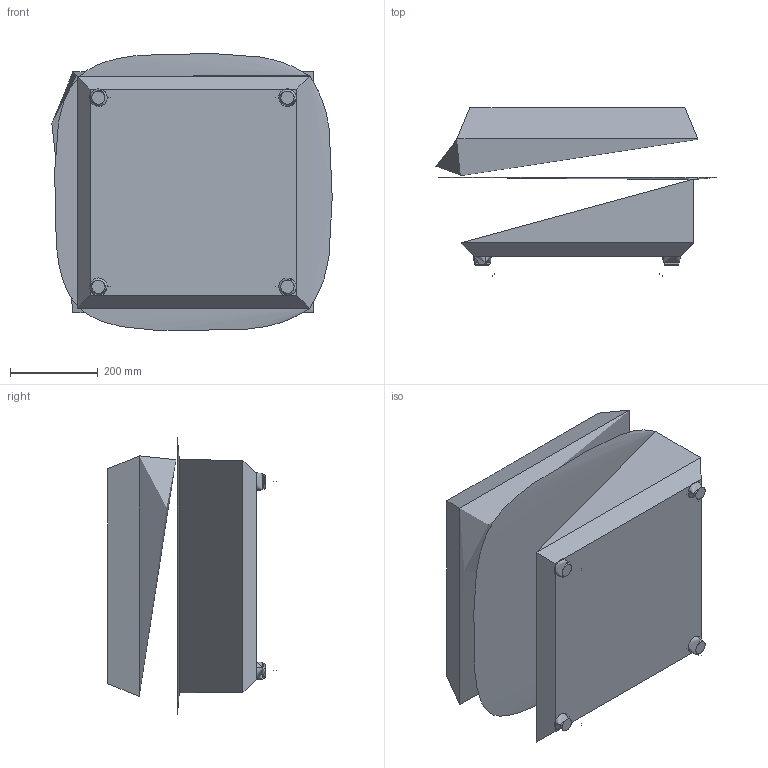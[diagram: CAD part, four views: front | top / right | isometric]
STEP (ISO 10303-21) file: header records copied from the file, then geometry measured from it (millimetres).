
FILE_DESCRIPTION(/* description */ (''),/* implementation_level */ '2;1');
FILE_NAME(/* name */ 'Covent Pouf, Small, 65x65',/* time_stamp */ '2024-07-02T15:58:38+02:00',/* author */ (''),/* organization */ (''),/* preprocessor_version */ 'ST-DEVELOPER v16.5',/* originating_system */ 'Rhino 7.37',/* authorisation */ '');
FILE_SCHEMA (('CONFIG_CONTROL_DESIGN'));
Length unit declared in the file: millimetre
Products named in the file (1): Document
Bounding box: 638.83 x 383.22 x 631.5 mm (x, y, z)
Volume: 137648563.5 mm3; surface area: 2282996.5 mm2
Topology: 10 solids, 10 shells, 57 faces, 96 edges, 58 vertices
Faces by surface type: bspline 27, plane 18, cylinder 12
Full cylindrical faces by diameter (mm): 57 x4
Entity records: 13572 total; most frequent: CARTESIAN_POINT 12795, ORIENTED_EDGE 190, EDGE_CURVE 95, VERTEX_POINT 58, ADVANCED_FACE 57, FACE_OUTER_BOUND 57, EDGE_LOOP 57, B_SPLINE_CURVE_WITH_KNOTS 42
